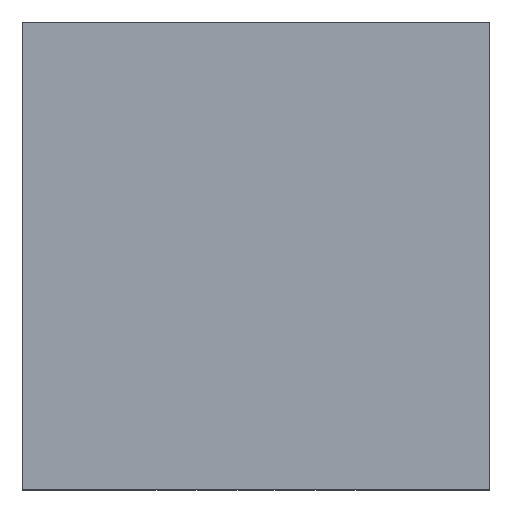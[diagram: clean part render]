
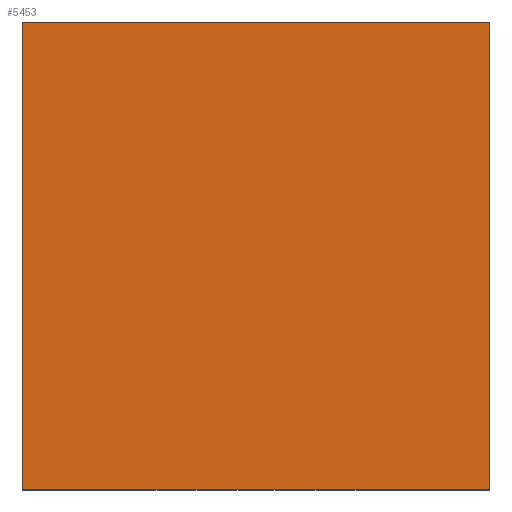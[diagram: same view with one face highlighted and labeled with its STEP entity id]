
A CAD part, top view. The second image highlights one B-rep face of the part: STEP entity #5453.
In plain terms, the highlighted planar face has unit normal (0, 0, 1).
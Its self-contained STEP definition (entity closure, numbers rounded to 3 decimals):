
#718 = LINE ( 'NONE', #2826, #6613 ) ;
#1026 = VERTEX_POINT ( 'NONE', #6116 ) ;
#1102 = EDGE_CURVE ( 'Defeatured_0_12+Defeatured_0_9+Defeatured_0_8+Defeatured_0_10', #4088, #1026, #1289, .T. ) ;
#1289 = LINE ( 'NONE', #6641, #4029 ) ;
#1375 = PLANE ( 'NONE',  #4980 ) ;
#1646 = CARTESIAN_POINT ( 'NONE',  ( 1.655, 0.048, 3.749 ) ) ;
#1670 = DIRECTION ( 'NONE',  ( 1., 0., 0. ) ) ;
#1688 = CARTESIAN_POINT ( 'NONE',  ( 3.634, 0.048, 3.749 ) ) ;
#1854 = CARTESIAN_POINT ( 'NONE',  ( 1.655, 2.073, 3.749 ) ) ;
#1855 = EDGE_LOOP ( 'NONE', ( #2442, #5548, #2985, #3526 ) ) ;
#1956 = EDGE_CURVE ( 'Defeatured_0_12+Defeatured_0_11+Defeatured_0_10+Defeatured_0_8', #6604, #3063, #6722, .T. ) ;
#2393 = DIRECTION ( 'NONE',  ( 0., -1., 0. ) ) ;
#2442 = ORIENTED_EDGE ( 'NONE', *, *, #4840, .T. ) ;
#2632 = EDGE_CURVE ( 'Defeatured_0_12+Defeatured_0_10+Defeatured_0_9+Defeatured_0_11', #1026, #6604, #6860, .T. ) ;
#2688 = CARTESIAN_POINT ( 'NONE',  ( 3.634, 2.073, 3.749 ) ) ;
#2826 = CARTESIAN_POINT ( 'NONE',  ( 1.655, 4.048, 3.749 ) ) ;
#2985 = ORIENTED_EDGE ( 'NONE', *, *, #2632, .T. ) ;
#3063 = VERTEX_POINT ( 'NONE', #3335 ) ;
#3204 = DIRECTION ( 'NONE',  ( 0., 1., 0. ) ) ;
#3335 = CARTESIAN_POINT ( 'NONE',  ( 3.634, 4.048, 3.749 ) ) ;
#3437 = DIRECTION ( 'NONE',  ( 1., 0., 0. ) ) ;
#3526 = ORIENTED_EDGE ( 'NONE', *, *, #1956, .T. ) ;
#4029 = VECTOR ( 'NONE', #2393, 1000. ) ;
#4088 = VERTEX_POINT ( 'NONE', #4302 ) ;
#4212 = VECTOR ( 'NONE', #1670, 1000. ) ;
#4302 = CARTESIAN_POINT ( 'NONE',  ( -0.366, 4.048, 3.749 ) ) ;
#4840 = EDGE_CURVE ( 'Defeatured_0_12+Defeatured_0_8+Defeatured_0_11+Defeatured_0_9', #3063, #4088, #718, .T. ) ;
#4980 = AXIS2_PLACEMENT_3D ( 'NONE', #1854, #6434, #3437 ) ;
#5453 = ADVANCED_FACE ( 'Defeatured_0_12', ( #6189 ), #1375, .T. ) ;
#5548 = ORIENTED_EDGE ( 'NONE', *, *, #1102, .T. ) ;
#6116 = CARTESIAN_POINT ( 'NONE',  ( -0.366, 0.048, 3.749 ) ) ;
#6189 = FACE_OUTER_BOUND ( 'NONE', #1855, .T. ) ;
#6434 = DIRECTION ( 'NONE',  ( 0., 0., 1. ) ) ;
#6581 = DIRECTION ( 'NONE',  ( -1., 0., 0. ) ) ;
#6604 = VERTEX_POINT ( 'NONE', #1688 ) ;
#6613 = VECTOR ( 'NONE', #6581, 1000. ) ;
#6641 = CARTESIAN_POINT ( 'NONE',  ( -0.366, 2.073, 3.749 ) ) ;
#6722 = LINE ( 'NONE', #2688, #6793 ) ;
#6793 = VECTOR ( 'NONE', #3204, 1000. ) ;
#6860 = LINE ( 'NONE', #1646, #4212 ) ;
